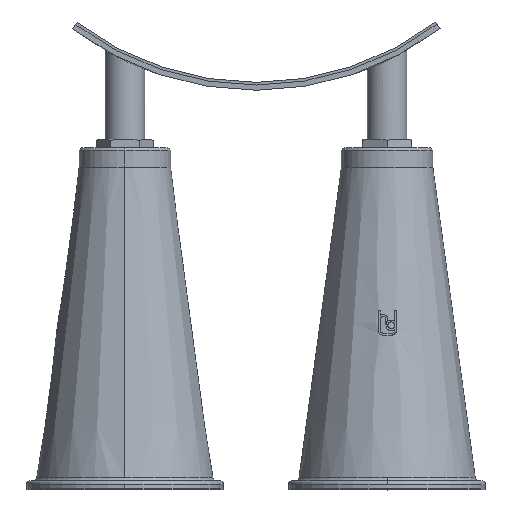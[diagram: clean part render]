
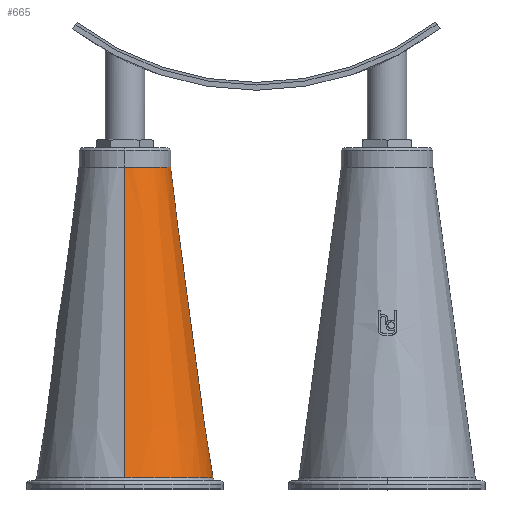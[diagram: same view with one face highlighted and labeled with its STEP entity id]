
A CAD part, front view. The second image highlights one B-rep face of the part: STEP entity #665.
In plain terms, the highlighted conical face has half-angle 7.768 degrees and reference radius 102.093 mm.
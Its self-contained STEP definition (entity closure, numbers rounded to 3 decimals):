
#665=ADVANCED_FACE('',(#1318),#1319,.T.);
#1318=FACE_OUTER_BOUND('',#2011,.T.);
#1319=CONICAL_SURFACE('',#2012,102.093,0.136);
#2011=EDGE_LOOP('',(#3636,#3637,#3638,#3639,#3640));
#2012=AXIS2_PLACEMENT_3D('',#3641,#3642,#3643);
#3636=ORIENTED_EDGE('',*,*,#4511,.T.);
#3637=ORIENTED_EDGE('',*,*,#4592,.F.);
#3638=ORIENTED_EDGE('',*,*,#4452,.F.);
#3639=ORIENTED_EDGE('',*,*,#4513,.T.);
#3640=ORIENTED_EDGE('',*,*,#4593,.T.);
#3641=CARTESIAN_POINT('',(8.211,528.029,-12.338));
#3642=DIRECTION('',(0.,0.,-1.0));
#3643=DIRECTION('',(0.,-1.0,0.));
#4452=EDGE_CURVE('',#5387,#5389,#5390,.T.);
#4511=EDGE_CURVE('',#5494,#5495,#5496,.T.);
#4513=EDGE_CURVE('',#5387,#5497,#5499,.T.);
#4592=EDGE_CURVE('',#5389,#5495,#5623,.T.);
#4593=EDGE_CURVE('',#5497,#5494,#5624,.T.);
#5387=VERTEX_POINT('',#8253);
#5389=VERTEX_POINT('',#8255);
#5390=CIRCLE('',#8256,134.41);
#5494=VERTEX_POINT('',#8714);
#5495=VERTEX_POINT('',#8715);
#5496=LINE('',#8716,#8717);
#5497=VERTEX_POINT('',#8718);
#5499=LINE('',#8720,#8721);
#5623=CIRCLE('',#9205,134.41);
#5624=CIRCLE('',#9206,69.775);
#8253=CARTESIAN_POINT('',(8.211,662.439,-249.231));
#8255=CARTESIAN_POINT('',(142.621,528.029,-249.231));
#8256=AXIS2_PLACEMENT_3D('',#9845,#9846,#9847);
#8714=CARTESIAN_POINT('',(8.211,458.254,224.555));
#8715=CARTESIAN_POINT('',(8.211,393.619,-249.231));
#8716=CARTESIAN_POINT('',(8.211,425.937,-12.338));
#8717=VECTOR('',#9917,1.0);
#8718=CARTESIAN_POINT('',(8.211,597.805,224.555));
#8720=CARTESIAN_POINT('',(8.211,630.122,-12.338));
#8721=VECTOR('',#9921,1.0);
#9205=AXIS2_PLACEMENT_3D('',#10002,#10003,#10004);
#9206=AXIS2_PLACEMENT_3D('',#10005,#10006,#10007);
#9845=CARTESIAN_POINT('',(8.211,528.029,-249.231));
#9846=DIRECTION('',(0.,0.,-1.0));
#9847=DIRECTION('',(0.,-1.0,0.));
#9917=DIRECTION('',(0.,-0.135,-0.991));
#9921=DIRECTION('',(0.,-0.135,0.991));
#10002=CARTESIAN_POINT('',(8.211,528.029,-249.231));
#10003=DIRECTION('',(0.,0.,-1.0));
#10004=DIRECTION('',(0.,-1.0,0.));
#10005=CARTESIAN_POINT('',(8.211,528.029,224.555));
#10006=DIRECTION('',(0.,0.,-1.0));
#10007=DIRECTION('',(0.,-1.0,0.));
